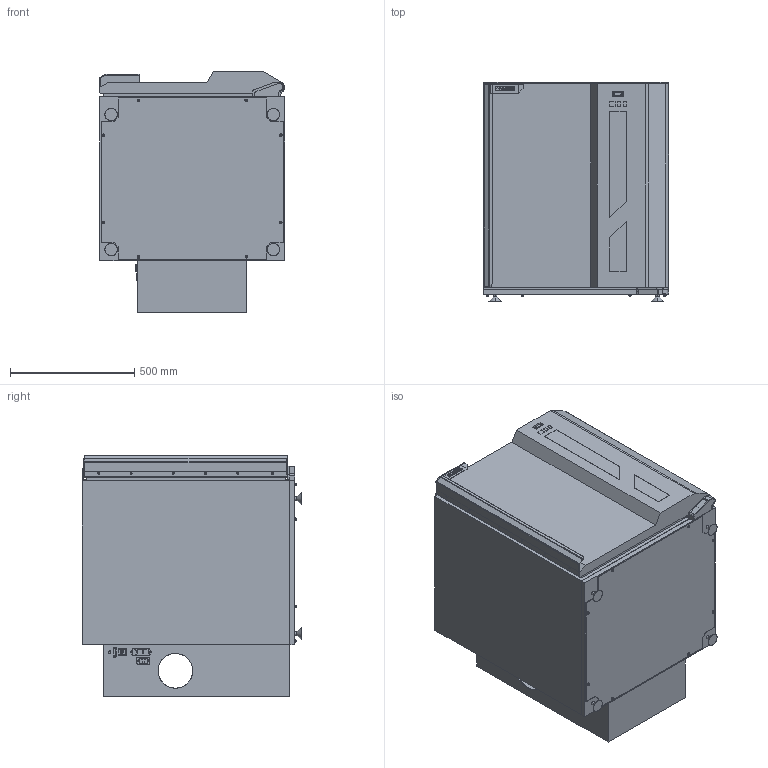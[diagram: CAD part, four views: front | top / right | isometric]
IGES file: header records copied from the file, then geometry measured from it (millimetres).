
Start section: SolidWorks IGES file using analytic representation for surfaces
Global section: file name: F:\Konstruktion\Massbilder f. CMa\STR240\STR240-Det._09.12.08\STR240-IT.IGS; native system: SolidWorks 2006 by SolidWorks Corporation; preprocessor: SolidWorks 2006 by SolidWorks Corporation; author: cma; date: 081210.155119; units: millimetre
Bounding box: 746 x 884 x 974 mm (x, y, z)
Surface area: 11330568.2 mm2 (no closed solid volume)
Topology: 0 solids, 0 shells, 1586 faces, 23415 edges, 27361 vertices
Faces by surface type: bspline 1015, revolution 571
